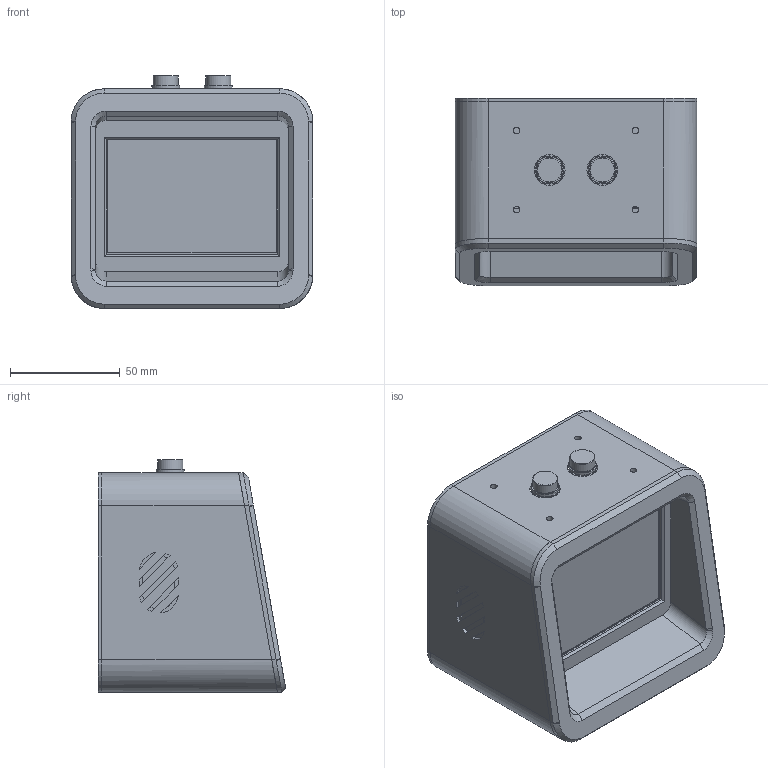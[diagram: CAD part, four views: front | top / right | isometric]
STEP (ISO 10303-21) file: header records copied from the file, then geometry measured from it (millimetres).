
FILE_DESCRIPTION(/* description */ (''),/* implementation_level */ '2;1');
FILE_NAME(/* name */ '/Users/emac5k/Dropbox/3D/Products/PyTitano Weather/cad/PyTitano Weather.step',/* time_stamp */ '2020-01-27T12:37:10-05:00',/* author */ (''),/* organization */ (''),/* preprocessor_version */ 'ST-DEVELOPER v18',/* originating_system */ 'Autodesk Translation Framework v8.12.0.6',/* authorisation */ '');
FILE_SCHEMA (('AUTOMOTIVE_DESIGN { 1 0 10303 214 3 1 1 }'));
Products named in the file (44): PyTitano Weather; electronics; 3923 Mini Oval Speaker; PyPortal Titano rev C; PCB Component; Board; 1uF; 5.1K; microSD; EVQQ 6mm; ATSAMD51J20; FAN5333BSX; ALS-PT21; RED; WS2812B3535; JST PH 3; JST PH 4; 3.6V; 500mA; GD25Q64; ESP32_WROOM32; 7.5mm SPK; PAM8301; CON_MOLEX_2P; 74AHC1G125; ATECCX08; 3.5" TFT; 10K; BSS138; 10uH inductor; MBR0540; MM3Z24VT1G; USB_C_CUSB31-CFM2AX-01-X; stemma push button; stemma push button_1; PCB; JST-PH3; Tactal Switch - SMD (12mmx12mmx6.0mm) v2; compy; frame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
Assembly tree (90 placements, depth 5):
  PyTitano Weather
    electronics
      3923 Mini Oval Speaker
      PyPortal Titano rev C
        PCB Component
          Board
          1uF  x16
          5.1K  x27
          microSD
          EVQQ 6mm
          ATSAMD51J20
          FAN5333BSX  x2
          ALS-PT21
          RED
          WS2812B3535
          JST PH 3  x2
          JST PH 4
          3.6V  x2
          500mA
          GD25Q64
          ESP32_WROOM32
          7.5mm SPK
          PAM8301
          CON_MOLEX_2P
          74AHC1G125
          ATECCX08
          3.5" TFT
          10K
          BSS138
          10uH inductor
          MBR0540
          MM3Z24VT1G
          USB_C_CUSB31-CFM2AX-01-X
      stemma push button
        PCB
        JST-PH3
        Tactal Switch - SMD (12mmx12mmx6.0mm) v2
      stemma push button_1
        PCB
        JST-PH3
        Tactal Switch - SMD (12mmx12mmx6.0mm) v2
    compy
      frame
      face
      screen
      cover
      button plate
Bounding box: 110 x 85.21 x 106.03 mm (x, y, z)
Volume: 118732 mm3; surface area: 137501.8 mm2
Topology: 155 solids, 155 shells, 5787 faces, 15314 edges, 9862 vertices
Faces by surface type: plane 4278, cylinder 1253, bspline 96, sphere 83, torus 50, cone 27
Full cylindrical faces by diameter (mm): 0.3 x1, 0.483 x148, 0.5 x32, 0.65 x2, 1 x9, 1.2 x1, 1.6 x1, 2.4 x1, 3 x30, 3.2 x4, 6 x2, 6.8 x2, 11.4 x2, 12.8 x2, 13.2 x2, 14 x2, 15.2 x2
Entity records: 151971 total; most frequent: CARTESIAN_POINT 28484, ORIENTED_EDGE 24952, DIRECTION 24296, EDGE_CURVE 12476, LINE 9834, VECTOR 9834, VERTEX_POINT 8028, AXIS2_PLACEMENT_3D 7231
